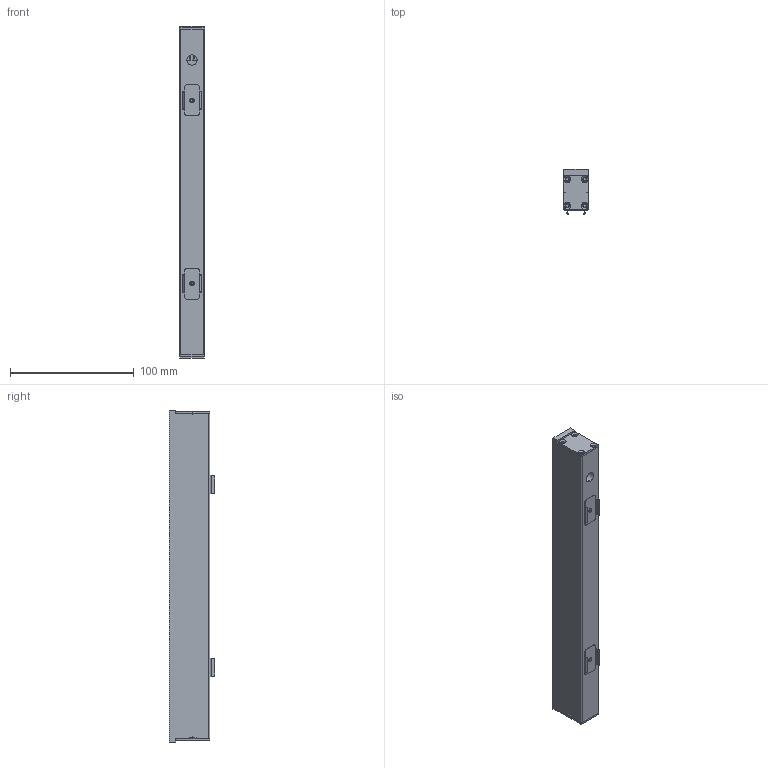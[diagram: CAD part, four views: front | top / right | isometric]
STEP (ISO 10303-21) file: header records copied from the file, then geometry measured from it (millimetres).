
FILE_DESCRIPTION((''),'2;1');
FILE_NAME('RNC_SLIM_270_SW0001','2025-07-24T11:28:18',('Piccioli'),(''),'CREO PARAMETRIC BY PTC INC, 2025010','CREO PARAMETRIC BY PTC INC, 2025010','');
FILE_SCHEMA(('CONFIG_CONTROL_DESIGN'));
Length unit declared in the file: millimetre
Products named in the file (1): RNC_SLIM_270_SW0001
Bounding box: 20.73 x 36.34 x 268 mm (x, y, z)
Surface area: 47497.2 mm2 (no closed solid volume)
Topology: 0 solids, 14 shells, 233 faces, 800 edges, 566 vertices
Faces by surface type: plane 104, cylinder 101, cone 20, torus 8
Entity records: 9452 total; most frequent: CARTESIAN_POINT 2505, DIRECTION 1435, ORIENTED_EDGE 1363, EDGE_CURVE 796, VERTEX_POINT 566, AXIS2_PLACEMENT_3D 494, VECTOR 447, LINE 447
